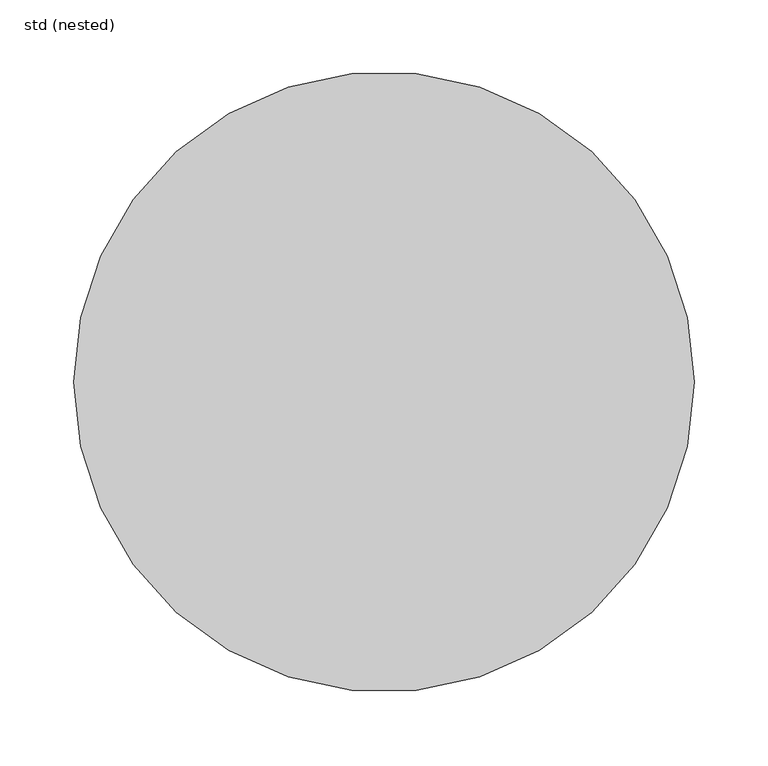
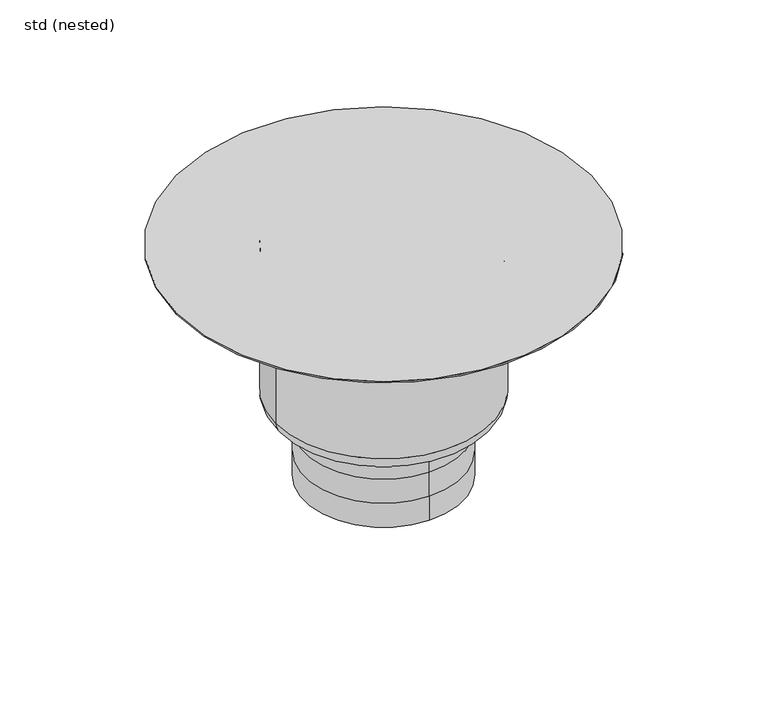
"""IFC4 building model written with IfcOpenShell, lengths in millimetres: sanitary terminal geometry, ZZZ_do not use_PF_ST_UN_telescopic hygienic gully_ACO : std (nested)."""

from ifc_helpers import new_model, si_unit, point, frame, origin, origin_with_axes, place, context, project, spatial, circle_curve, ellipse_curve, trimmed, source, transform, mapped, element, save
from ifc_brep_helpers import plane_surface, cylinder_surface, revolved_surface, advanced_brep


def std_nested_2ee354ad(model_context):
    return source(origin(), model_context, "Body", "AdvancedBrep", [
        advanced_brep(
        [(0.0, -80.0, -247.0), (0.0, 80.0, -247.0), (0.0, -80.0, -221.3333333), (0.0, 80.0, -221.3333333), (0.0, -80.0, -195.6666667), (0.0, 80.0, -195.6666667), (0.0, 80.0, -170.0), (80.0, 0.0, -170.0), (0.0, -80.0, -170.0), (-80.0, 0.0, -170.0), (109.0, 0.0, -153.5), (-109.0, 0.0, -153.5), (-109.0, 0.0, -1.5), (109.0, 0.0, -1.5), (92.5, 0.0, -170.0), (-92.5, 0.0, -170.0), (-210.0, 0.0, -1.5), (210.0, 0.0, -1.5), (-210.0, 0.0, 0.0), (210.0, 0.0, 0.0)],
        [
            (0, 1, circle_curve(frame((0.0, 0.0, -247.0), z_axis=(0.0, 0.0, -1.0), x_axis=(0.0, 1.0, 0.0)), 80.0)),
            (1, 0, circle_curve(frame((0.0, 0.0, -247.0), z_axis=(0.0, 0.0, -1.0), x_axis=(0.0, 1.0, 0.0)), 80.0)),
            (0, 2),
            (2, 3, circle_curve(frame((0.0, 0.0, -221.3333333), z_axis=(0.0, 0.0, -1.0), x_axis=(0.0, 1.0, 0.0)), 80.0)),
            (3, 1),
            (3, 2, circle_curve(frame((0.0, 0.0, -221.3333333), z_axis=(0.0, 0.0, -1.0), x_axis=(0.0, 1.0, 0.0)), 80.0)),
            (4, 2),
            (3, 5),
            (5, 4, circle_curve(frame((0.0, 0.0, -195.6666667), z_axis=(0.0, 0.0, -1.0), x_axis=(1.0, 0.0, 0.0)), 80.0)),
            (4, 5, circle_curve(frame((0.0, 0.0, -195.6666667), z_axis=(0.0, 0.0, -1.0), x_axis=(-1.0, 0.0, 0.0)), 80.0)),
            (5, 6),
            (6, 7, circle_curve(frame((0.0, 0.0, -170.0), z_axis=(0.0, 0.0, -1.0), x_axis=(0.0, 1.0, 0.0)), 80.0)),
            (7, 8, circle_curve(frame((0.0, 0.0, -170.0), z_axis=(0.0, 0.0, -1.0), x_axis=(0.0, 1.0, 0.0)), 80.0)),
            (8, 4),
            (8, 9, circle_curve(frame((0.0, 0.0, -170.0), z_axis=(0.0, 0.0, -1.0), x_axis=(0.0, 1.0, 0.0)), 80.0)),
            (9, 6, circle_curve(frame((0.0, 0.0, -170.0), z_axis=(0.0, 0.0, -1.0), x_axis=(0.0, 1.0, 0.0)), 80.0)),
            (10, 11, circle_curve(frame((0.0, 0.0, -153.5), z_axis=(0.0, 0.0, 1.0), x_axis=(-1.0, 0.0, 0.0)), 109.0)),
            (11, 12),
            (12, 13, circle_curve(frame((0.0, 0.0, -1.5), z_axis=(0.0, 0.0, -1.0), x_axis=(-1.0, 0.0, 0.0)), 109.0)),
            (13, 10),
            (11, 10, circle_curve(frame((0.0, 0.0, -153.5), z_axis=(0.0, 0.0, 1.0), x_axis=(-1.0, 0.0, 0.0)), 109.0)),
            (13, 12, circle_curve(frame((0.0, 0.0, -1.5), z_axis=(0.0, 0.0, -1.0), x_axis=(-1.0, 0.0, 0.0)), 109.0)),
            (10, 14, circle_curve(frame((92.5, 0.0, -153.5), z_axis=(0.0, 1.0, 0.0), x_axis=(-1.0, 0.0, 0.0)), 16.5)),
            (14, 15, circle_curve(frame((0.0, 0.0, -170.0), z_axis=(0.0, 0.0, 1.0), x_axis=(-1.0, 0.0, 0.0)), 92.5)),
            (15, 11, circle_curve(frame((-92.5, 0.0, -153.5), z_axis=(0.0, 1.0, 0.0), x_axis=(1.0, 0.0, 0.0)), 16.5)),
            (15, 14, circle_curve(frame((0.0, 0.0, -170.0), z_axis=(0.0, 0.0, 1.0), x_axis=(-1.0, 0.0, 0.0)), 92.5)),
            (14, 7),
            (9, 15),
            (16, 17, circle_curve(frame((0.0, 0.0, -1.5), z_axis=(0.0, 0.0, -1.0), x_axis=(1.0, 0.0, 0.0)), 210.0)),
            (17, 16, circle_curve(frame((0.0, 0.0, -1.5), z_axis=(0.0, 0.0, -1.0), x_axis=(1.0, 0.0, 0.0)), 210.0)),
            (18, 19, circle_curve(origin_with_axes(), 210.0)),
            (19, 18, circle_curve(origin_with_axes(), 210.0)),
            (17, 19),
            (18, 16),
        ],
        [
            plane_surface(frame((0.0, 80.0, -247.0), z_axis=(0.0, 0.0, -1.0), x_axis=(1.0, 0.0, 0.0))),
            cylinder_surface(frame((0.0, 0.0, -221.3333333), z_axis=(0.0, 0.0, -1.0), x_axis=(0.0, 1.0, 0.0)), 80.0),
            cylinder_surface(frame((0.0, 0.0, -195.6666667), z_axis=(0.0, 0.0, -1.0), x_axis=(1.0, 0.0, 0.0)), 80.0),
            cylinder_surface(frame((0.0, 0.0, -195.6666667), z_axis=(0.0, 0.0, -1.0), x_axis=(-1.0, 0.0, 0.0)), 80.0),
            cylinder_surface(frame((0.0, 0.0, -170.0), z_axis=(0.0, 0.0, -1.0), x_axis=(0.0, 1.0, 0.0)), 80.0),
            cylinder_surface(frame((0.0, 0.0, 60.0), z_axis=(0.0, 0.0, -1.0), x_axis=(-1.0, 0.0, 0.0)), 109.0),
            revolved_surface(trimmed(ellipse_curve(frame((-92.5, 0.0, -153.5), z_axis=(0.0, -1.0, 0.0), x_axis=(1.0, 0.0, 0.0)), 16.5, 16.5), [point((-109.0, 0.0, -153.5))], [point((-92.5, 0.0, -170.0))], True, "CARTESIAN"), (0.0, 0.0, 60.0), (0.0, 0.0, -1.0)),
            plane_surface(frame((0.0, 0.0, -170.0), z_axis=(0.0, 0.0, -1.0), x_axis=(-1.0, 0.0, 0.0))),
            plane_surface(frame((210.0, 0.0, -1.5), z_axis=(0.0, 0.0, -1.0), x_axis=(0.0, -1.0, 0.0))),
            plane_surface(frame((210.0, 0.0, 0.0), z_axis=(0.0, 0.0, 1.0), x_axis=(0.0, 1.0, 0.0))),
            cylinder_surface(frame((0.0, 0.0, -1.5), z_axis=(0.0, 0.0, 1.0), x_axis=(1.0, 0.0, 0.0)), 210.0),
        ],
        [
            (0, [[1, 2]]),
            (1, [[-1, 3, 4, 5]]),
            (1, [[-2, -5, 6, -3]]),
            (2, [[7, -6, 8, 9]]),
            (3, [[-7, 10, -8, -4]]),
            (4, [[11, 12, 13, 14, -9]]),
            (4, [[-11, -10, -14, 15, 16]]),
            (5, [[17, 18, 19, 20]]),
            (5, [[-18, 21, -20, 22]]),
            (6, [[-17, 23, 24, 25]]),
            (6, [[-21, -25, 26, -23]]),
            (7, [[-24, 27, -12, -16, 28]]),
            (7, [[-26, -28, -15, -13, -27]]),
            (8, [[29, 30], [-19, -22]]),
            (9, [[31, 32]]),
            (10, [[-30, 33, -31, 34]]),
            (10, [[-29, -34, -32, -33]]),
        ],
    ),
    ])


if __name__ == "__main__":
    model = new_model("IFC4")
    model_context = context("Model", 3, world=origin())
    ifc_project = project(units=[si_unit("LENGTHUNIT", "METRE", prefix="MILLI")], contexts=[model_context])
    site = spatial("IfcSite", under=ifc_project)
    building = spatial("IfcBuilding", under=site)
    placement = place(None, origin())
    std_nested_shape = std_nested_2ee354ad(model_context)
    element("IfcSanitaryTerminal", 1, ObjectType="ZZZ_do not use_PF_ST_UN_telescopic hygienic gully_ACO : std (nested)", at=placement, inside=building, context=model_context, shape_type="MappedRepresentation", body=[
        mapped(std_nested_shape, transform((0.0, 0.0, 0.0), x_axis=(1.0, 0.0, 0.0), y_axis=(0.0, 1.0, 0.0), z_axis=(0.0, 0.0, 1.0))),
    ])
    save(model, "model.ifc")
